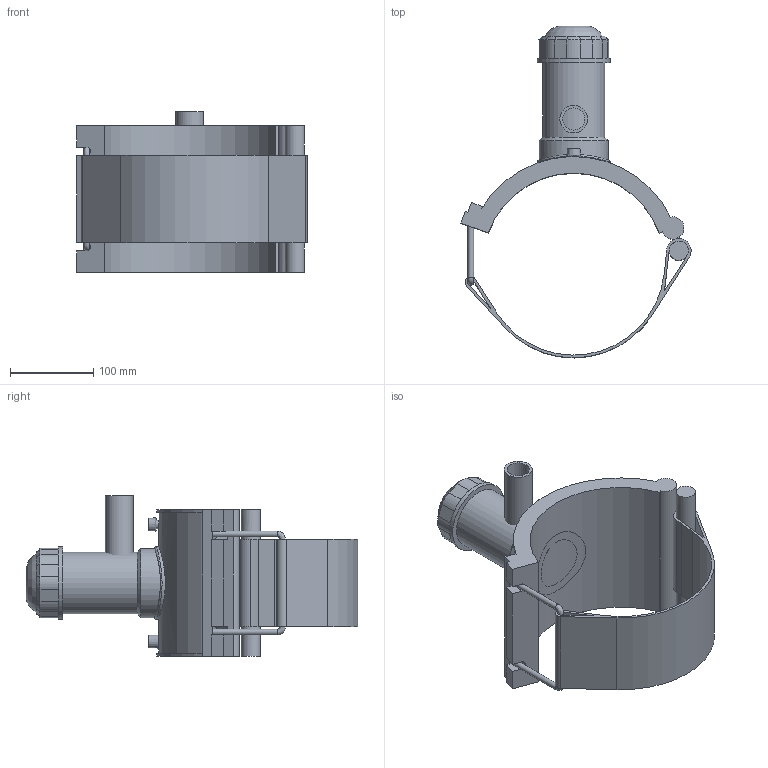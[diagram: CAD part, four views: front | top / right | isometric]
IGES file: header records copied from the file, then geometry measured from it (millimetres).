
Global section: file name: 5963BBP3080010.ipt; native system: Autodesk Inventor 2019; preprocessor: unknown; author: KIM; date: 20210830.101603; units: inch
Bounding box: 276.84 x 399.02 x 192.91 mm (x, y, z)
Volume: 1819553.8 mm3; surface area: 364459.6 mm2
Topology: 4 solids, 4 shells, 124 faces, 304 edges, 194 vertices
Faces by surface type: plane 69, cylinder 28, revolution 15, cone 11, bspline 1
Full cylindrical faces by diameter (mm): 4 x2, 6.998 x2, 23.048 x1, 33.3 x1, 74.358 x1, 83.106 x1, 87.48 x2
